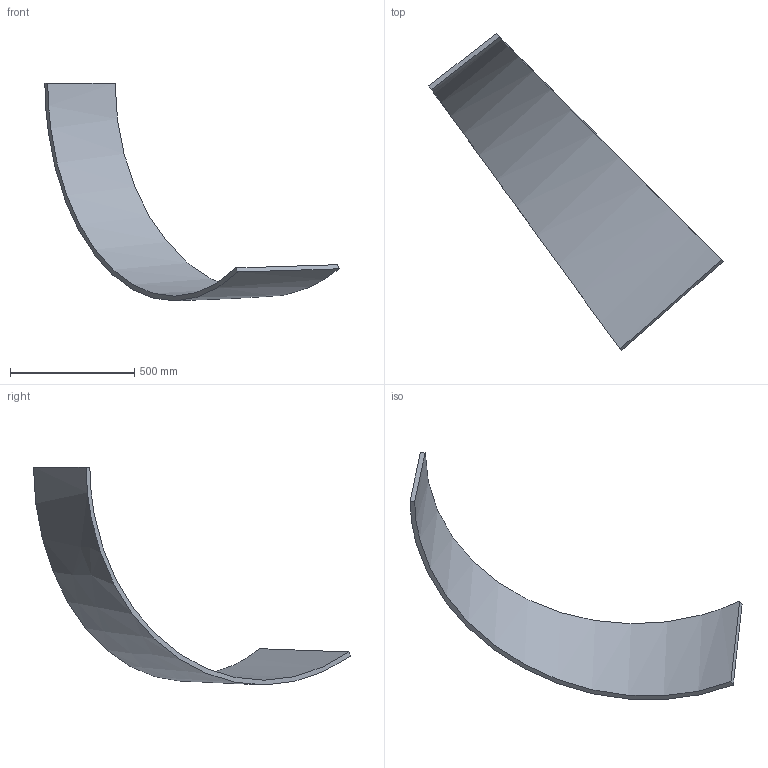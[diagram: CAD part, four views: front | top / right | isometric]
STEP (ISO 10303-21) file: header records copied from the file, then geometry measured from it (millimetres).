
FILE_DESCRIPTION (( 'STEP AP214' ), '1' );
FILE_NAME ('Section 9-A.STEP', '2025-01-09T19:43:29', ( '' ), ( '' ), 'SwSTEP 2.0', 'SolidWorks 2024', '' );
FILE_SCHEMA (( 'AUTOMOTIVE_DESIGN' ));
Length unit declared in the file: inch
Products named in the file (1): Section 9-A
Bounding box: 1186.12 x 1277.86 x 877.79 mm (x, y, z)
Volume: 14504517 mm3; surface area: 1608247.6 mm2
Topology: 1 solids, 1 shells, 6 faces, 12 edges, 8 vertices
Faces by surface type: bspline 6
Entity records: 315 total; most frequent: CARTESIAN_POINT 201, ORIENTED_EDGE 24, B_SPLINE_CURVE_WITH_KNOTS 12, EDGE_CURVE 12, VERTEX_POINT 8, B_SPLINE_SURFACE_WITH_KNOTS 6, ADVANCED_FACE 6, FACE_OUTER_BOUND 6
